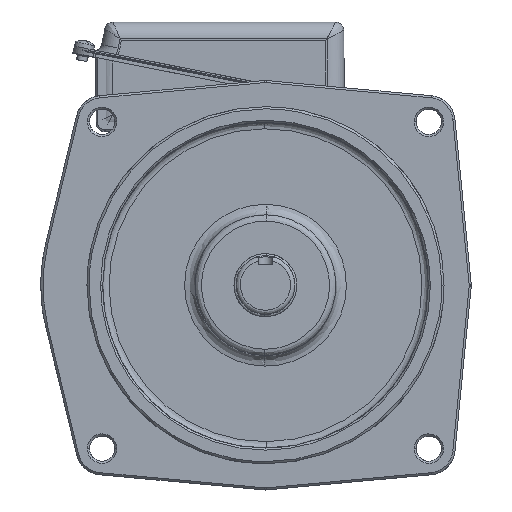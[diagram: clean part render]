
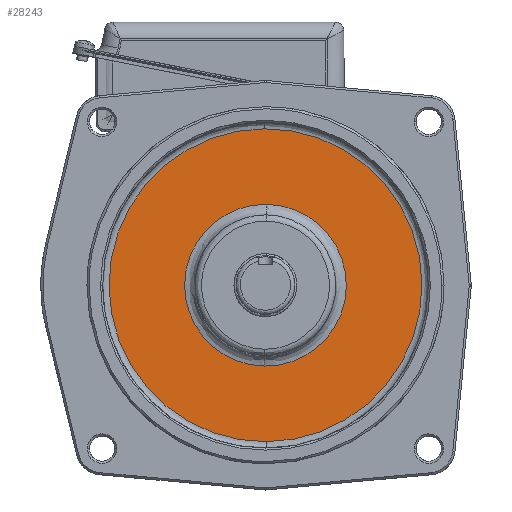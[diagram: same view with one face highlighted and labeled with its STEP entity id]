
A CAD part, top view. The second image highlights one B-rep face of the part: STEP entity #28243.
In plain terms, the highlighted planar face has unit normal (0, 0, 1) as drawn and (0, -1, 0) by its records, which use the part's own axes.
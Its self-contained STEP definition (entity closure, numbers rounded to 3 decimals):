
#28085 = EDGE_CURVE ( 'NONE', #35847, #35766, #56162, .T. ) ;
#28242 = EDGE_CURVE ( 'NONE', #35681, #35742, #57200, .T. ) ;
#28243 = ADVANCED_FACE ( 'NONE', ( #57202, #57192 ), #57189, .T. ) ;
#28244 = EDGE_LOOP ( 'NONE', ( #28245, #28246 ) ) ;
#28245 = ORIENTED_EDGE ( 'NONE', *, *, #28242, .F. ) ;
#28246 = ORIENTED_EDGE ( 'NONE', *, *, #35680, .F. ) ;
#28247 = EDGE_LOOP ( 'NONE', ( #28301, #28302 ) ) ;
#28301 = ORIENTED_EDGE ( 'NONE', *, *, #35799, .F. ) ;
#28302 = ORIENTED_EDGE ( 'NONE', *, *, #28085, .F. ) ;
#35680 = EDGE_CURVE ( 'NONE', #35742, #35681, #56116, .T. ) ;
#35681 = VERTEX_POINT ( 'NONE', #56108 ) ;
#35742 = VERTEX_POINT ( 'NONE', #56475 ) ;
#35766 = VERTEX_POINT ( 'NONE', #56678 ) ;
#35799 = EDGE_CURVE ( 'NONE', #35766, #35847, #56971, .T. ) ;
#35847 = VERTEX_POINT ( 'NONE', #57524 ) ;
#56108 = CARTESIAN_POINT ( 'NONE',  ( 38.496, 1.5, -0.566 ) ) ;
#56109 = DIRECTION ( 'NONE',  ( -1., 0., 0. ) ) ;
#56111 = DIRECTION ( 'NONE',  ( 0., -1., 0. ) ) ;
#56112 = CARTESIAN_POINT ( 'NONE',  ( 0., 1.5, 0. ) ) ;
#56114 = AXIS2_PLACEMENT_3D ( 'NONE', #56112, #56111, #56109 ) ;
#56116 = CIRCLE ( 'NONE', #56114, 38.5 ) ;
#56162 = CIRCLE ( 'NONE', #56236, 74.5 ) ;
#56230 = DIRECTION ( 'NONE',  ( -1., 0., 0. ) ) ;
#56232 = DIRECTION ( 'NONE',  ( 0., 1., 0. ) ) ;
#56235 = CARTESIAN_POINT ( 'NONE',  ( 0., 1.5, 0. ) ) ;
#56236 = AXIS2_PLACEMENT_3D ( 'NONE', #56235, #56232, #56230 ) ;
#56475 = CARTESIAN_POINT ( 'NONE',  ( -38.496, 1.5, 0.566 ) ) ;
#56678 = CARTESIAN_POINT ( 'NONE',  ( -74.497, 1.5, -0.673 ) ) ;
#56965 = DIRECTION ( 'NONE',  ( -1., 0., 0. ) ) ;
#56967 = DIRECTION ( 'NONE',  ( 0., 1., 0. ) ) ;
#56969 = CARTESIAN_POINT ( 'NONE',  ( 0., 1.5, 0. ) ) ;
#56970 = AXIS2_PLACEMENT_3D ( 'NONE', #56969, #56967, #56965 ) ;
#56971 = CIRCLE ( 'NONE', #56970, 74.5 ) ;
#57110 = CARTESIAN_POINT ( 'NONE',  ( 0., 1.5, 0. ) ) ;
#57177 = DIRECTION ( 'NONE',  ( 0., 0., -1. ) ) ;
#57179 = DIRECTION ( 'NONE',  ( 0., -1., 0. ) ) ;
#57181 = CARTESIAN_POINT ( 'NONE',  ( 0., 1.5, 0. ) ) ;
#57182 = AXIS2_PLACEMENT_3D ( 'NONE', #57181, #57179, #57177 ) ;
#57189 = PLANE ( 'NONE',  #57182 ) ;
#57192 = FACE_OUTER_BOUND ( 'NONE', #28247, .T. ) ;
#57194 = DIRECTION ( 'NONE',  ( -1., 0., 0. ) ) ;
#57196 = DIRECTION ( 'NONE',  ( 0., -1., 0. ) ) ;
#57198 = AXIS2_PLACEMENT_3D ( 'NONE', #57110, #57196, #57194 ) ;
#57200 = CIRCLE ( 'NONE', #57198, 38.5 ) ;
#57202 = FACE_BOUND ( 'NONE', #28244, .T. ) ;
#57524 = CARTESIAN_POINT ( 'NONE',  ( 74.497, 1.5, 0.673 ) ) ;
